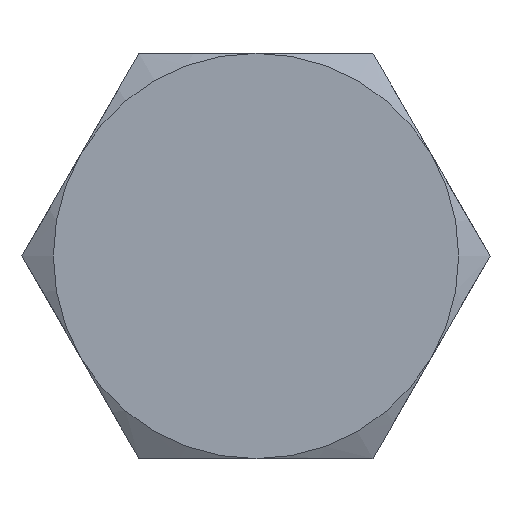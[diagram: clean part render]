
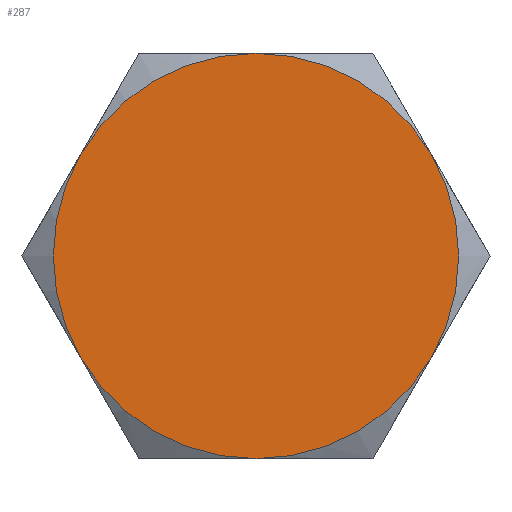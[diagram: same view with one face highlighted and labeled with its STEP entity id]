
A CAD part, left-side view. The second image highlights one B-rep face of the part: STEP entity #287.
In plain terms, the highlighted planar face has unit normal (-1, 0, 0).
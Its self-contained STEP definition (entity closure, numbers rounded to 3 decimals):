
#37=PLANE('',#340);
#57=FACE_OUTER_BOUND('',#77,.T.);
#77=EDGE_LOOP('',(#252,#253,#254,#255,#256,#257));
#115=CIRCLE('',#321,3.5);
#116=CIRCLE('',#323,3.5);
#117=CIRCLE('',#325,3.5);
#118=CIRCLE('',#327,3.5);
#119=CIRCLE('',#329,3.5);
#120=CIRCLE('',#331,3.5);
#127=VERTEX_POINT('',#438);
#129=VERTEX_POINT('',#443);
#131=VERTEX_POINT('',#450);
#132=VERTEX_POINT('',#459);
#135=VERTEX_POINT('',#470);
#136=VERTEX_POINT('',#479);
#154=EDGE_CURVE('',#129,#127,#115,.T.);
#158=EDGE_CURVE('',#131,#129,#116,.T.);
#160=EDGE_CURVE('',#127,#132,#117,.T.);
#164=EDGE_CURVE('',#135,#131,#118,.T.);
#166=EDGE_CURVE('',#132,#136,#119,.T.);
#170=EDGE_CURVE('',#136,#135,#120,.T.);
#252=ORIENTED_EDGE('',*,*,#154,.T.);
#253=ORIENTED_EDGE('',*,*,#160,.T.);
#254=ORIENTED_EDGE('',*,*,#166,.T.);
#255=ORIENTED_EDGE('',*,*,#170,.T.);
#256=ORIENTED_EDGE('',*,*,#164,.T.);
#257=ORIENTED_EDGE('',*,*,#158,.T.);
#287=ADVANCED_FACE('',(#57),#37,.F.);
#321=AXIS2_PLACEMENT_3D('',#444,#364,#365);
#323=AXIS2_PLACEMENT_3D('',#457,#368,#369);
#325=AXIS2_PLACEMENT_3D('',#464,#372,#373);
#327=AXIS2_PLACEMENT_3D('',#477,#376,#377);
#329=AXIS2_PLACEMENT_3D('',#484,#380,#381);
#331=AXIS2_PLACEMENT_3D('',#496,#384,#385);
#340=AXIS2_PLACEMENT_3D('',#524,#414,#415);
#364=DIRECTION('center_axis',(-1.,0.,0.));
#365=DIRECTION('ref_axis',(0.,1.,0.));
#368=DIRECTION('center_axis',(-1.,0.,0.));
#369=DIRECTION('ref_axis',(0.,1.,0.));
#372=DIRECTION('center_axis',(-1.,0.,0.));
#373=DIRECTION('ref_axis',(0.,1.,0.));
#376=DIRECTION('center_axis',(-1.,0.,0.));
#377=DIRECTION('ref_axis',(0.,1.,0.));
#380=DIRECTION('center_axis',(-1.,0.,0.));
#381=DIRECTION('ref_axis',(0.,1.,0.));
#384=DIRECTION('center_axis',(-1.,0.,0.));
#385=DIRECTION('ref_axis',(0.,1.,0.));
#414=DIRECTION('center_axis',(1.,0.,0.));
#415=DIRECTION('ref_axis',(0.,0.,-1.));
#438=CARTESIAN_POINT('',(-2.8,3.031,1.75));
#443=CARTESIAN_POINT('',(-2.8,0.,3.5));
#444=CARTESIAN_POINT('Origin',(-2.8,0.,0.));
#450=CARTESIAN_POINT('',(-2.8,-3.031,1.75));
#457=CARTESIAN_POINT('Origin',(-2.8,0.,0.));
#459=CARTESIAN_POINT('',(-2.8,3.031,-1.75));
#464=CARTESIAN_POINT('Origin',(-2.8,0.,0.));
#470=CARTESIAN_POINT('',(-2.8,-3.031,-1.75));
#477=CARTESIAN_POINT('Origin',(-2.8,0.,0.));
#479=CARTESIAN_POINT('',(-2.8,0.,-3.5));
#484=CARTESIAN_POINT('Origin',(-2.8,0.,0.));
#496=CARTESIAN_POINT('Origin',(-2.8,0.,0.));
#524=CARTESIAN_POINT('Origin',(-2.8,0.,
0.));
